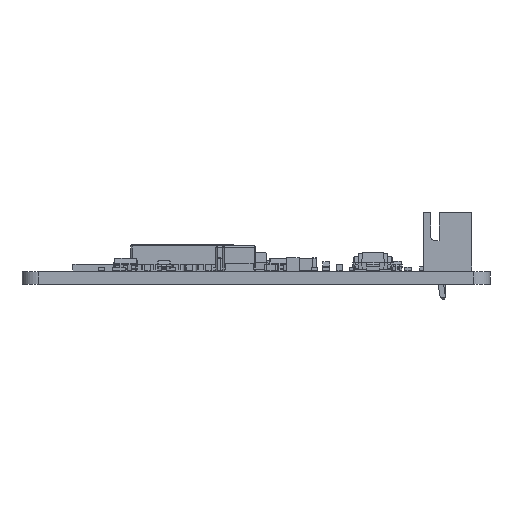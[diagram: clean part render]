
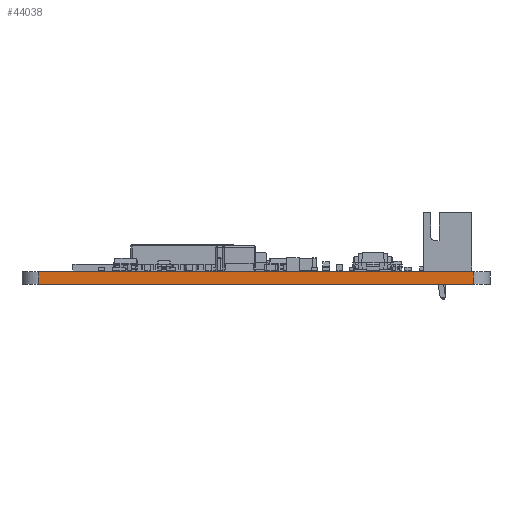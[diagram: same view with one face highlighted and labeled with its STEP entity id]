
A CAD part, left-side view. The second image highlights one B-rep face of the part: STEP entity #44038.
In plain terms, the highlighted planar face has unit normal (-1, 0, 0).
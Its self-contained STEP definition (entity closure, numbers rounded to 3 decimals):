
#43179 = VERTEX_POINT('',#43180);
#43180 = CARTESIAN_POINT('',(100.,-102.,0.));
#43187 = EDGE_CURVE('',#43188,#43179,#43190,.T.);
#43188 = VERTEX_POINT('',#43189);
#43189 = CARTESIAN_POINT('',(100.,-154.,0.));
#43190 = LINE('',#43191,#43192);
#43191 = CARTESIAN_POINT('',(100.,-154.,0.));
#43192 = VECTOR('',#43193,1.);
#43193 = DIRECTION('',(0.,1.,0.));
#43595 = VERTEX_POINT('',#43596);
#43596 = CARTESIAN_POINT('',(100.,-102.,1.51));
#43603 = EDGE_CURVE('',#43604,#43595,#43606,.T.);
#43604 = VERTEX_POINT('',#43605);
#43605 = CARTESIAN_POINT('',(100.,-154.,1.51));
#43606 = LINE('',#43607,#43608);
#43607 = CARTESIAN_POINT('',(100.,-154.,1.51));
#43608 = VECTOR('',#43609,1.);
#43609 = DIRECTION('',(0.,1.,0.));
#44008 = EDGE_CURVE('',#43179,#43595,#44009,.T.);
#44009 = LINE('',#44010,#44011);
#44010 = CARTESIAN_POINT('',(100.,-102.,0.));
#44011 = VECTOR('',#44012,1.);
#44012 = DIRECTION('',(0.,0.,1.));
#44038 = ADVANCED_FACE('',(#44039),#44050,.T.);
#44039 = FACE_BOUND('',#44040,.T.);
#44040 = EDGE_LOOP('',(#44041,#44047,#44048,#44049));
#44041 = ORIENTED_EDGE('',*,*,#44042,.T.);
#44042 = EDGE_CURVE('',#43188,#43604,#44043,.T.);
#44043 = LINE('',#44044,#44045);
#44044 = CARTESIAN_POINT('',(100.,-154.,0.));
#44045 = VECTOR('',#44046,1.);
#44046 = DIRECTION('',(0.,0.,1.));
#44047 = ORIENTED_EDGE('',*,*,#43603,.T.);
#44048 = ORIENTED_EDGE('',*,*,#44008,.F.);
#44049 = ORIENTED_EDGE('',*,*,#43187,.F.);
#44050 = PLANE('',#44051);
#44051 = AXIS2_PLACEMENT_3D('',#44052,#44053,#44054);
#44052 = CARTESIAN_POINT('',(100.,-154.,0.));
#44053 = DIRECTION('',(-1.,0.,0.));
#44054 = DIRECTION('',(0.,1.,0.));
